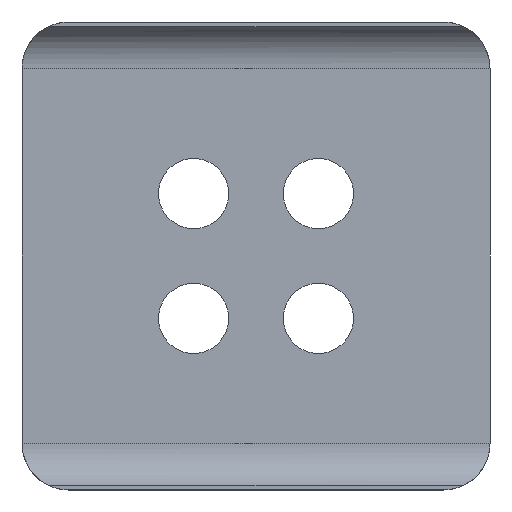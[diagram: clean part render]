
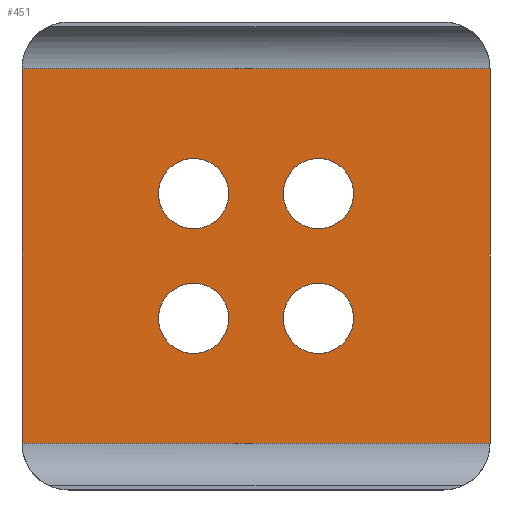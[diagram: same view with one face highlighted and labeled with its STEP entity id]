
A CAD part, front view. The second image highlights one B-rep face of the part: STEP entity #451.
In plain terms, the highlighted planar face has unit normal (0, -1, 0).
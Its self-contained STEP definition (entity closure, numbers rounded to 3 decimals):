
#6 = CIRCLE ( 'NONE', #275, 2.25 ) ;
#8 = CARTESIAN_POINT ( 'NONE',  ( 15., -3., -12. ) ) ;
#27 = ORIENTED_EDGE ( 'NONE', *, *, #287, .T. ) ;
#31 = DIRECTION ( 'NONE',  ( 0., 0., -1. ) ) ;
#32 = CARTESIAN_POINT ( 'NONE',  ( 4., -3., -4. ) ) ;
#63 = CARTESIAN_POINT ( 'NONE',  ( 15., -3., 12. ) ) ;
#65 = VERTEX_POINT ( 'NONE', #482 ) ;
#73 = FACE_OUTER_BOUND ( 'NONE', #606, .T. ) ;
#79 = CIRCLE ( 'NONE', #960, 2.25 ) ;
#109 = CARTESIAN_POINT ( 'NONE',  ( 4., -3., -6.25 ) ) ;
#149 = PLANE ( 'NONE',  #828 ) ;
#152 = VECTOR ( 'NONE', #31, 1000. ) ;
#155 = DIRECTION ( 'NONE',  ( 0., 0., 1. ) ) ;
#204 = CIRCLE ( 'NONE', #1033, 2.25 ) ;
#206 = VERTEX_POINT ( 'NONE', #1015 ) ;
#213 = ORIENTED_EDGE ( 'NONE', *, *, #542, .F. ) ;
#248 = EDGE_CURVE ( 'NONE', #814, #814, #6, .T. ) ;
#272 = DIRECTION ( 'NONE',  ( 0., -1., 0. ) ) ;
#275 = AXIS2_PLACEMENT_3D ( 'NONE', #1082, #272, #641 ) ;
#277 = DIRECTION ( 'NONE',  ( -1., 0., 0. ) ) ;
#280 = ORIENTED_EDGE ( 'NONE', *, *, #578, .F. ) ;
#285 = DIRECTION ( 'NONE',  ( 0., 0., -1. ) ) ;
#287 = EDGE_CURVE ( 'NONE', #65, #939, #306, .T. ) ;
#289 = DIRECTION ( 'NONE',  ( 0., -1., 0. ) ) ;
#292 = DIRECTION ( 'NONE',  ( 0., -1., 0. ) ) ;
#306 = LINE ( 'NONE', #925, #152 ) ;
#341 = DIRECTION ( 'NONE',  ( -1., 0., 0. ) ) ;
#353 = LINE ( 'NONE', #1073, #782 ) ;
#362 = CARTESIAN_POINT ( 'NONE',  ( 4., -3., 1.75 ) ) ;
#371 = CIRCLE ( 'NONE', #1102, 2.25 ) ;
#417 = FACE_BOUND ( 'NONE', #1146, .T. ) ;
#451 = ADVANCED_FACE ( 'NONE', ( #595, #877, #417, #73, #956 ), #149, .F. ) ;
#479 = EDGE_CURVE ( 'NONE', #206, #206, #79, .T. ) ;
#482 = CARTESIAN_POINT ( 'NONE',  ( -15., -3., 12. ) ) ;
#534 = ORIENTED_EDGE ( 'NONE', *, *, #1020, .T. ) ;
#542 = EDGE_CURVE ( 'NONE', #809, #809, #371, .T. ) ;
#578 = EDGE_CURVE ( 'NONE', #740, #740, #204, .T. ) ;
#584 = ORIENTED_EDGE ( 'NONE', *, *, #479, .F. ) ;
#595 = FACE_BOUND ( 'NONE', #706, .T. ) ;
#606 = EDGE_LOOP ( 'NONE', ( #27, #1141, #1045, #534 ) ) ;
#641 = DIRECTION ( 'NONE',  ( 0., 0., -1. ) ) ;
#651 = DIRECTION ( 'NONE',  ( 0., 0., -1. ) ) ;
#657 = DIRECTION ( 'NONE',  ( 0., 0., -1. ) ) ;
#658 = ORIENTED_EDGE ( 'NONE', *, *, #248, .F. ) ;
#668 = EDGE_CURVE ( 'NONE', #896, #991, #1129, .T. ) ;
#703 = CARTESIAN_POINT ( 'NONE',  ( 15., -3., -12. ) ) ;
#706 = EDGE_LOOP ( 'NONE', ( #280 ) ) ;
#725 = VECTOR ( 'NONE', #277, 1000. ) ;
#740 = VERTEX_POINT ( 'NONE', #109 ) ;
#777 = CARTESIAN_POINT ( 'NONE',  ( 15., -3., 12. ) ) ;
#782 = VECTOR ( 'NONE', #341, 1000. ) ;
#809 = VERTEX_POINT ( 'NONE', #826 ) ;
#814 = VERTEX_POINT ( 'NONE', #362 ) ;
#819 = VECTOR ( 'NONE', #285, 1000. ) ;
#820 = CARTESIAN_POINT ( 'NONE',  ( -4., -3., 4. ) ) ;
#826 = CARTESIAN_POINT ( 'NONE',  ( -4., -3., -6.25 ) ) ;
#828 = AXIS2_PLACEMENT_3D ( 'NONE', #777, #961, #155 ) ;
#834 = DIRECTION ( 'NONE',  ( 0., 0., -1. ) ) ;
#869 = CARTESIAN_POINT ( 'NONE',  ( -4., -3., -4. ) ) ;
#877 = FACE_BOUND ( 'NONE', #1127, .T. ) ;
#896 = VERTEX_POINT ( 'NONE', #63 ) ;
#925 = CARTESIAN_POINT ( 'NONE',  ( -15., -3., 12. ) ) ;
#939 = VERTEX_POINT ( 'NONE', #951 ) ;
#951 = CARTESIAN_POINT ( 'NONE',  ( -15., -3., -12. ) ) ;
#954 = EDGE_LOOP ( 'NONE', ( #658 ) ) ;
#956 = FACE_BOUND ( 'NONE', #954, .T. ) ;
#960 = AXIS2_PLACEMENT_3D ( 'NONE', #820, #289, #651 ) ;
#961 = DIRECTION ( 'NONE',  ( 0., 1., 0. ) ) ;
#991 = VERTEX_POINT ( 'NONE', #703 ) ;
#1005 = CARTESIAN_POINT ( 'NONE',  ( 15., -3., 12. ) ) ;
#1015 = CARTESIAN_POINT ( 'NONE',  ( -4., -3., 1.75 ) ) ;
#1020 = EDGE_CURVE ( 'NONE', #896, #65, #353, .T. ) ;
#1033 = AXIS2_PLACEMENT_3D ( 'NONE', #32, #292, #657 ) ;
#1045 = ORIENTED_EDGE ( 'NONE', *, *, #668, .F. ) ;
#1073 = CARTESIAN_POINT ( 'NONE',  ( 15., -3., 12. ) ) ;
#1082 = CARTESIAN_POINT ( 'NONE',  ( 4., -3., 4. ) ) ;
#1097 = LINE ( 'NONE', #8, #725 ) ;
#1102 = AXIS2_PLACEMENT_3D ( 'NONE', #869, #1121, #834 ) ;
#1121 = DIRECTION ( 'NONE',  ( 0., -1., 0. ) ) ;
#1127 = EDGE_LOOP ( 'NONE', ( #213 ) ) ;
#1129 = LINE ( 'NONE', #1005, #819 ) ;
#1141 = ORIENTED_EDGE ( 'NONE', *, *, #1151, .F. ) ;
#1146 = EDGE_LOOP ( 'NONE', ( #584 ) ) ;
#1151 = EDGE_CURVE ( 'NONE', #991, #939, #1097, .T. ) ;
